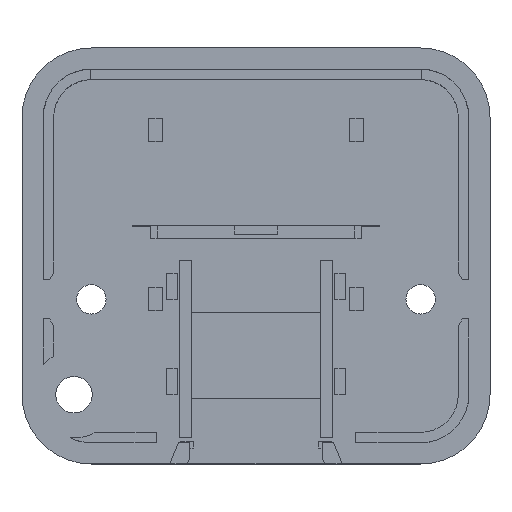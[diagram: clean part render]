
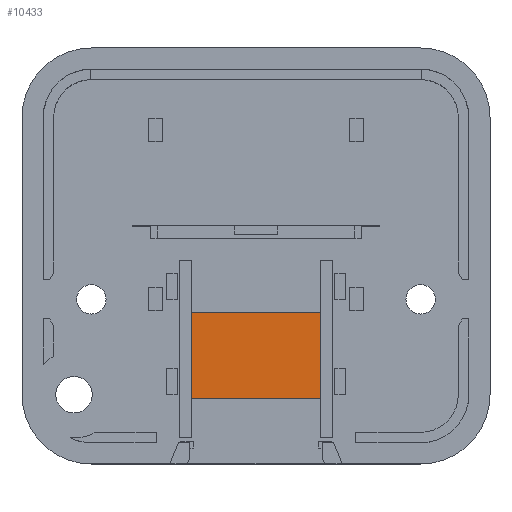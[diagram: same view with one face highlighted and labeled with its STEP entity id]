
A CAD part, top view. The second image highlights one B-rep face of the part: STEP entity #10433.
In plain terms, the highlighted planar face has unit normal (0, 0, 1).
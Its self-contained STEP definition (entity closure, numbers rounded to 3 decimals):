
#1604 = PLANE('',#1605);
#1605 = AXIS2_PLACEMENT_3D('',#1606,#1607,#1608);
#1606 = CARTESIAN_POINT('',(-7.5,-6.5,1.));
#1607 = DIRECTION('',(0.,1.,0.));
#1608 = DIRECTION('',(0.,0.,1.));
#1767 = PLANE('',#1768);
#1768 = AXIS2_PLACEMENT_3D('',#1769,#1770,#1771);
#1769 = CARTESIAN_POINT('',(-7.5,-16.5,1.));
#1770 = DIRECTION('',(0.,1.,0.));
#1771 = DIRECTION('',(0.,0.,1.));
#6273 = EDGE_CURVE('',#6274,#6276,#6278,.T.);
#6274 = VERTEX_POINT('',#6275);
#6275 = CARTESIAN_POINT('',(-7.5,-6.5,1.));
#6276 = VERTEX_POINT('',#6277);
#6277 = CARTESIAN_POINT('',(7.5,-6.5,1.));
#6278 = SURFACE_CURVE('',#6279,(#6283,#6290),.PCURVE_S1.);
#6279 = LINE('',#6280,#6281);
#6280 = CARTESIAN_POINT('',(-7.5,-6.5,1.));
#6281 = VECTOR('',#6282,1.);
#6282 = DIRECTION('',(1.,0.,0.));
#6283 = PCURVE('',#1604,#6284);
#6284 = DEFINITIONAL_REPRESENTATION('',(#6285),#6289);
#6285 = LINE('',#6286,#6287);
#6286 = CARTESIAN_POINT('',(0.,0.));
#6287 = VECTOR('',#6288,1.);
#6288 = DIRECTION('',(0.,1.));
#6289 = ( GEOMETRIC_REPRESENTATION_CONTEXT(2) 
PARAMETRIC_REPRESENTATION_CONTEXT() REPRESENTATION_CONTEXT('2D SPACE',''
  ) );
#6290 = PCURVE('',#6291,#6296);
#6291 = PLANE('',#6292);
#6292 = AXIS2_PLACEMENT_3D('',#6293,#6294,#6295);
#6293 = CARTESIAN_POINT('',(-7.5,-16.5,1.));
#6294 = DIRECTION('',(0.,0.,1.));
#6295 = DIRECTION('',(1.,0.,0.));
#6296 = DEFINITIONAL_REPRESENTATION('',(#6297),#6301);
#6297 = LINE('',#6298,#6299);
#6298 = CARTESIAN_POINT('',(0.,10.));
#6299 = VECTOR('',#6300,1.);
#6300 = DIRECTION('',(1.,0.));
#6301 = ( GEOMETRIC_REPRESENTATION_CONTEXT(2) 
PARAMETRIC_REPRESENTATION_CONTEXT() REPRESENTATION_CONTEXT('2D SPACE',''
  ) );
#6319 = PLANE('',#6320);
#6320 = AXIS2_PLACEMENT_3D('',#6321,#6322,#6323);
#6321 = CARTESIAN_POINT('',(-7.5,-16.5,1.));
#6322 = DIRECTION('',(1.,0.,0.));
#6323 = DIRECTION('',(0.,0.,1.));
#6395 = PLANE('',#6396);
#6396 = AXIS2_PLACEMENT_3D('',#6397,#6398,#6399);
#6397 = CARTESIAN_POINT('',(7.5,-16.5,1.));
#6398 = DIRECTION('',(1.,0.,0.));
#6399 = DIRECTION('',(0.,0.,1.));
#6410 = EDGE_CURVE('',#6411,#6413,#6415,.T.);
#6411 = VERTEX_POINT('',#6412);
#6412 = CARTESIAN_POINT('',(-7.5,-16.5,1.));
#6413 = VERTEX_POINT('',#6414);
#6414 = CARTESIAN_POINT('',(7.5,-16.5,1.));
#6415 = SURFACE_CURVE('',#6416,(#6420,#6427),.PCURVE_S1.);
#6416 = LINE('',#6417,#6418);
#6417 = CARTESIAN_POINT('',(-7.5,-16.5,1.));
#6418 = VECTOR('',#6419,1.);
#6419 = DIRECTION('',(1.,0.,0.));
#6420 = PCURVE('',#1767,#6421);
#6421 = DEFINITIONAL_REPRESENTATION('',(#6422),#6426);
#6422 = LINE('',#6423,#6424);
#6423 = CARTESIAN_POINT('',(0.,0.));
#6424 = VECTOR('',#6425,1.);
#6425 = DIRECTION('',(0.,1.));
#6426 = ( GEOMETRIC_REPRESENTATION_CONTEXT(2) 
PARAMETRIC_REPRESENTATION_CONTEXT() REPRESENTATION_CONTEXT('2D SPACE',''
  ) );
#6427 = PCURVE('',#6291,#6428);
#6428 = DEFINITIONAL_REPRESENTATION('',(#6429),#6433);
#6429 = LINE('',#6430,#6431);
#6430 = CARTESIAN_POINT('',(0.,0.));
#6431 = VECTOR('',#6432,1.);
#6432 = DIRECTION('',(1.,0.));
#6433 = ( GEOMETRIC_REPRESENTATION_CONTEXT(2) 
PARAMETRIC_REPRESENTATION_CONTEXT() REPRESENTATION_CONTEXT('2D SPACE',''
  ) );
#10433 = ADVANCED_FACE('',(#10434),#6291,.T.);
#10434 = FACE_BOUND('',#10435,.T.);
#10435 = EDGE_LOOP('',(#10436,#10457,#10458,#10479));
#10436 = ORIENTED_EDGE('',*,*,#10437,.F.);
#10437 = EDGE_CURVE('',#6411,#6274,#10438,.T.);
#10438 = SURFACE_CURVE('',#10439,(#10443,#10450),.PCURVE_S1.);
#10439 = LINE('',#10440,#10441);
#10440 = CARTESIAN_POINT('',(-7.5,-16.5,1.));
#10441 = VECTOR('',#10442,1.);
#10442 = DIRECTION('',(0.,1.,0.));
#10443 = PCURVE('',#6291,#10444);
#10444 = DEFINITIONAL_REPRESENTATION('',(#10445),#10449);
#10445 = LINE('',#10446,#10447);
#10446 = CARTESIAN_POINT('',(0.,0.));
#10447 = VECTOR('',#10448,1.);
#10448 = DIRECTION('',(0.,1.));
#10449 = ( GEOMETRIC_REPRESENTATION_CONTEXT(2) 
PARAMETRIC_REPRESENTATION_CONTEXT() REPRESENTATION_CONTEXT('2D SPACE',''
  ) );
#10450 = PCURVE('',#6319,#10451);
#10451 = DEFINITIONAL_REPRESENTATION('',(#10452),#10456);
#10452 = LINE('',#10453,#10454);
#10453 = CARTESIAN_POINT('',(0.,0.));
#10454 = VECTOR('',#10455,1.);
#10455 = DIRECTION('',(0.,-1.));
#10456 = ( GEOMETRIC_REPRESENTATION_CONTEXT(2) 
PARAMETRIC_REPRESENTATION_CONTEXT() REPRESENTATION_CONTEXT('2D SPACE',''
  ) );
#10457 = ORIENTED_EDGE('',*,*,#6410,.T.);
#10458 = ORIENTED_EDGE('',*,*,#10459,.T.);
#10459 = EDGE_CURVE('',#6413,#6276,#10460,.T.);
#10460 = SURFACE_CURVE('',#10461,(#10465,#10472),.PCURVE_S1.);
#10461 = LINE('',#10462,#10463);
#10462 = CARTESIAN_POINT('',(7.5,-16.5,1.));
#10463 = VECTOR('',#10464,1.);
#10464 = DIRECTION('',(0.,1.,0.));
#10465 = PCURVE('',#6291,#10466);
#10466 = DEFINITIONAL_REPRESENTATION('',(#10467),#10471);
#10467 = LINE('',#10468,#10469);
#10468 = CARTESIAN_POINT('',(15.,0.));
#10469 = VECTOR('',#10470,1.);
#10470 = DIRECTION('',(0.,1.));
#10471 = ( GEOMETRIC_REPRESENTATION_CONTEXT(2) 
PARAMETRIC_REPRESENTATION_CONTEXT() REPRESENTATION_CONTEXT('2D SPACE',''
  ) );
#10472 = PCURVE('',#6395,#10473);
#10473 = DEFINITIONAL_REPRESENTATION('',(#10474),#10478);
#10474 = LINE('',#10475,#10476);
#10475 = CARTESIAN_POINT('',(0.,0.));
#10476 = VECTOR('',#10477,1.);
#10477 = DIRECTION('',(0.,-1.));
#10478 = ( GEOMETRIC_REPRESENTATION_CONTEXT(2) 
PARAMETRIC_REPRESENTATION_CONTEXT() REPRESENTATION_CONTEXT('2D SPACE',''
  ) );
#10479 = ORIENTED_EDGE('',*,*,#6273,.F.);
